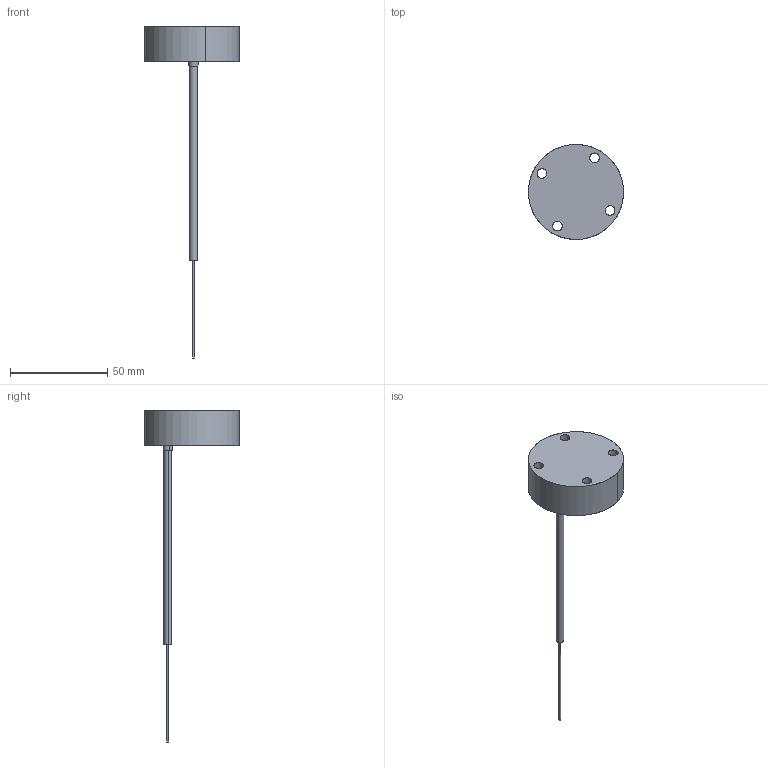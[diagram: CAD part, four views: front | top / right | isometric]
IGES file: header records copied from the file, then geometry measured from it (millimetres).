
Start section: SolidWorks IGES file using analytic representation for surfaces
Global section: file name: C:\Users\Toshiba\Desktop\SR20.IGS; native system: SolidWorks 2014; preprocessor: SolidWorks 2014; author: Toshiba; date: 160621.093624; units: metre
Bounding box: 49 x 49 x 171 mm (x, y, z)
Surface area: 9024.5 mm2 (no closed solid volume)
Topology: 0 solids, 0 shells, 22 faces, 608 edges, 608 vertices
Faces by surface type: revolution 16, bspline 6
